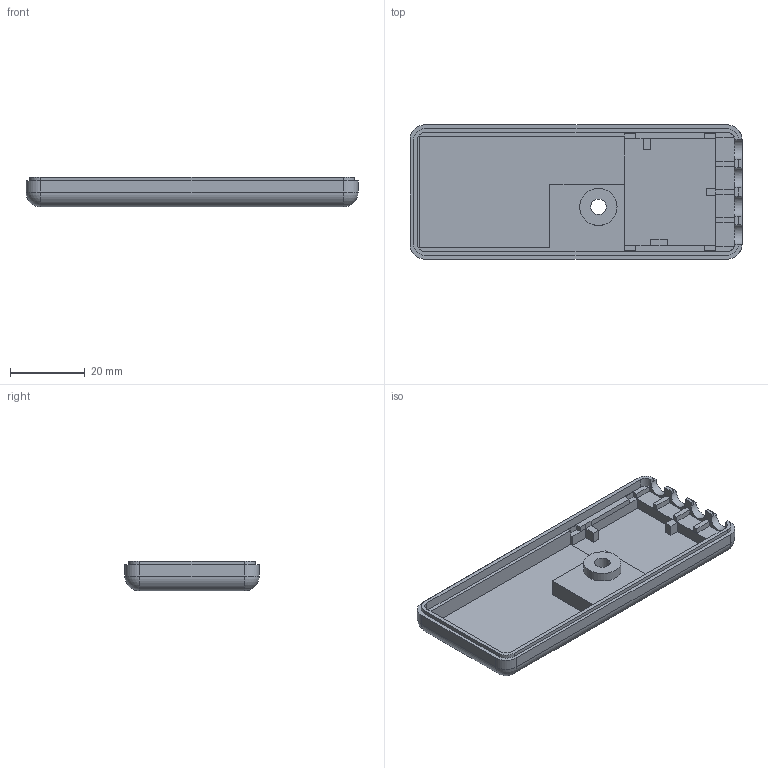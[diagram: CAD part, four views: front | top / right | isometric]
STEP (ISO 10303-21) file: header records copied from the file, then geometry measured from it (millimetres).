
FILE_DESCRIPTION(('FreeCAD Model'),'2;1');
FILE_NAME('/home/malte/3d/freecad/solarpocketlight/bottom8.step', '2018-09-29T17:45:43',('Author'),(''), 'Open CASCADE STEP processor 7.2','FreeCAD','Unknown');
FILE_SCHEMA(('AUTOMOTIVE_DESIGN_CC2 { 1 2 10303 214 -1 1 5 4 }'));
Length unit declared in the file: millimetre
Products named in the file (1): PocketLEDs
Bounding box: 89 x 36 x 8 mm (x, y, z)
Volume: 8442.7 mm3; surface area: 9778.3 mm2
Topology: 1 solids, 1 shells, 131 faces, 347 edges, 215 vertices
Faces by surface type: plane 105, cylinder 22, sphere 4
Full cylindrical faces by diameter (mm): 4.2 x1, 10 x1
Entity records: 8352 total; most frequent: CARTESIAN_POINT 1833, DIRECTION 1096, LINE 720, VECTOR 720, ORIENTED_EDGE 686, PCURVE 686, DEFINITIONAL_REPRESENTATION 686, EDGE_CURVE 343
